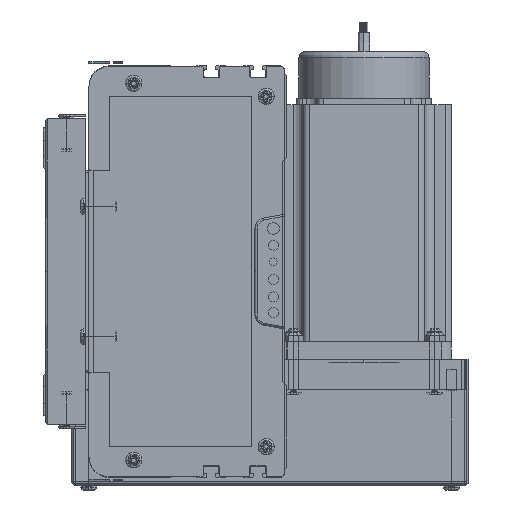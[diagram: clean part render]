
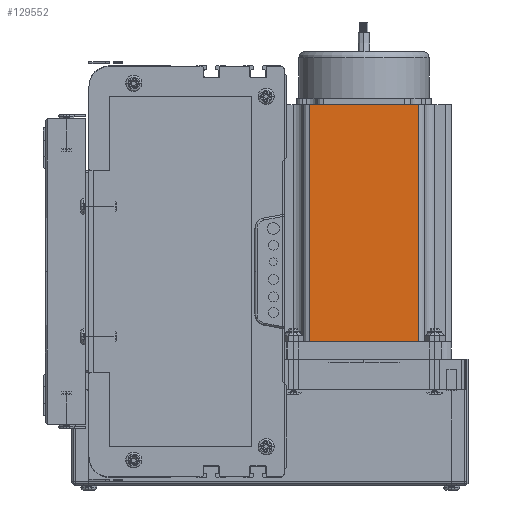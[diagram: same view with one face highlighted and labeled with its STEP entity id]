
A CAD part, left-side view. The second image highlights one B-rep face of the part: STEP entity #129552.
In plain terms, the highlighted planar face has unit normal (-1, 0, 0) as drawn and (0, -1, 0) by its records, which use the part's own axes.
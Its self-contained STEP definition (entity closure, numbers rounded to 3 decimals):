
#117341 = CARTESIAN_POINT ( 'NONE',  ( 16.16, 0., 116.5 ) ) ;
#117355 = DIRECTION ( 'NONE',  ( 0., 0., 1. ) ) ;
#117356 = DIRECTION ( 'NONE',  ( 0., 1., 0. ) ) ;
#117357 = CARTESIAN_POINT ( 'NONE',  ( 0., 0., 116.5 ) ) ;
#117358 = CARTESIAN_POINT ( 'NONE',  ( 16.16, 0., 116.5 ) ) ;
#117359 = LINE ( 'NONE', #117358, #117423 ) ;
#117362 = PLANE ( 'NONE',  #117364 ) ;
#117364 = AXIS2_PLACEMENT_3D ( 'NONE', #117357, #117356, #117355 ) ;
#117367 = FACE_OUTER_BOUND ( 'NONE', #129576, .T. ) ;
#117400 = CARTESIAN_POINT ( 'NONE',  ( 69.74, 0., 0. ) ) ;
#117404 = DIRECTION ( 'NONE',  ( 0., 0., 1. ) ) ;
#117405 = VECTOR ( 'NONE', #117404, 1000. ) ;
#117406 = CARTESIAN_POINT ( 'NONE',  ( 69.74, 0., 116.5 ) ) ;
#117407 = LINE ( 'NONE', #117406, #117405 ) ;
#117411 = DIRECTION ( 'NONE',  ( 1., 0., 0. ) ) ;
#117412 = VECTOR ( 'NONE', #117411, 1000. ) ;
#117413 = CARTESIAN_POINT ( 'NONE',  ( 0., 0., 116.5 ) ) ;
#117421 = LINE ( 'NONE', #117413, #117412 ) ;
#117422 = DIRECTION ( 'NONE',  ( 0., 0., -1. ) ) ;
#117423 = VECTOR ( 'NONE', #117422, 1000. ) ;
#117595 = CARTESIAN_POINT ( 'NONE',  ( 69.74, 0., 116.5 ) ) ;
#129513 = VERTEX_POINT ( 'NONE', #117341 ) ;
#129550 = ORIENTED_EDGE ( 'NONE', *, *, #129553, .T. ) ;
#129552 = ADVANCED_FACE ( 'NONE', ( #117367 ), #117362, .F. ) ;
#129553 = EDGE_CURVE ( 'NONE', #129513, #129727, #117359, .T. ) ;
#129555 = EDGE_CURVE ( 'NONE', #129513, #129579, #117421, .T. ) ;
#129556 = ORIENTED_EDGE ( 'NONE', *, *, #129780, .T. ) ;
#129557 = EDGE_CURVE ( 'NONE', #129560, #129579, #117407, .T. ) ;
#129560 = VERTEX_POINT ( 'NONE', #117400 ) ;
#129567 = ORIENTED_EDGE ( 'NONE', *, *, #129555, .F. ) ;
#129576 = EDGE_LOOP ( 'NONE', ( #129556, #129724, #129567, #129550 ) ) ;
#129579 = VERTEX_POINT ( 'NONE', #117595 ) ;
#129724 = ORIENTED_EDGE ( 'NONE', *, *, #129557, .T. ) ;
#129727 = VERTEX_POINT ( 'NONE', #155702 ) ;
#129780 = EDGE_CURVE ( 'NONE', #129727, #129560, #156310, .T. ) ;
#155702 = CARTESIAN_POINT ( 'NONE',  ( 16.16, 0., 0. ) ) ;
#156305 = DIRECTION ( 'NONE',  ( 1., 0., 0. ) ) ;
#156306 = VECTOR ( 'NONE', #156305, 1000. ) ;
#156308 = CARTESIAN_POINT ( 'NONE',  ( 0., 0., 0. ) ) ;
#156310 = LINE ( 'NONE', #156308, #156306 ) ;
